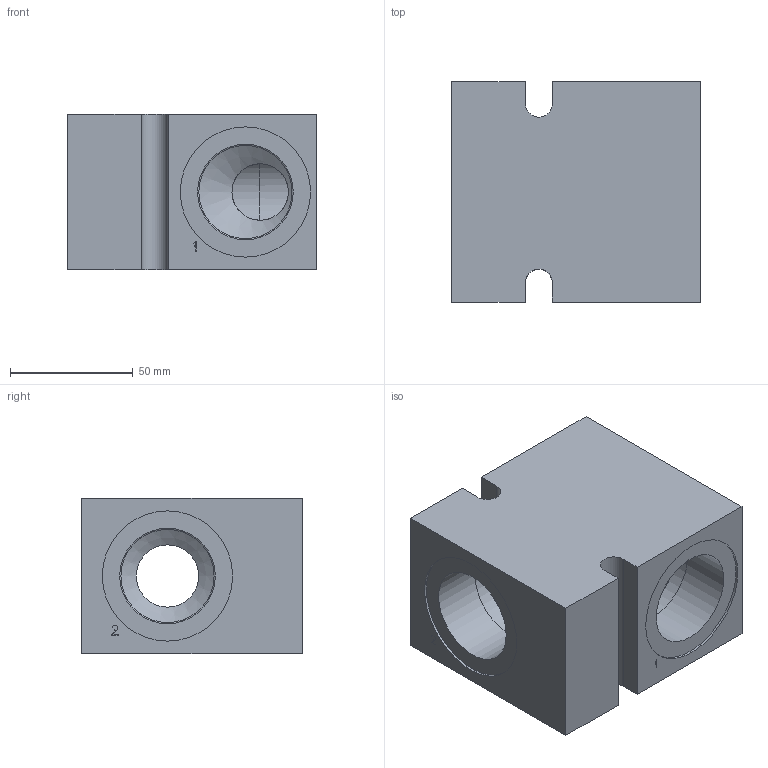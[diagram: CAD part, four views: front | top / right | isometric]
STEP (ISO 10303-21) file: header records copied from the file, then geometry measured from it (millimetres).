
FILE_DESCRIPTION( ( 'Unknown' ), '1' );
FILE_NAME( 'G:/Graphic Design/Graphic Design 2/Data Sheets/Delta Bodies/DRAWINGS/B-DSJF2.stp', 'Unknown', ( 'Unknown' ), ( 'Unknown' ), 'PSStep 16.0.42', 'Unknown', ' ' );
FILE_SCHEMA( ( 'AUTOMOTIVE_DESIGN { 1 0 10303 214 1 1 1 1 }' ) );
Length unit declared in the file: millimetre
Products named in the file (2): Assem1; B-DSJF2
Assembly tree (1 placements, depth 2):
  Assem1
    B-DSJF2
Bounding box: 101.6 x 90 x 63.5 mm (x, y, z)
Surface area: 57294.5 mm2 (no closed solid volume)
Topology: 0 solids, 84 shells, 84 faces, 404 edges, 379 vertices
Faces by surface type: plane 57, cylinder 18, cone 8, torus 1
Full cylindrical faces by diameter (mm): 0.2 x2, 23 x1, 25.4 x1, 28.651 x1, 31.806 x2, 38 x2, 39 x4, 48.514 x1, 53.16 x2
Entity records: 4658 total; most frequent: CARTESIAN_POINT 1348, DIRECTION 450, ORIENTED_EDGE 362, EDGE_CURVE 362, VERTEX_POINT 362, AXIS2_PLACEMENT_3D 156, B_SPLINE_CURVE_WITH_KNOTS 154, LINE 138
